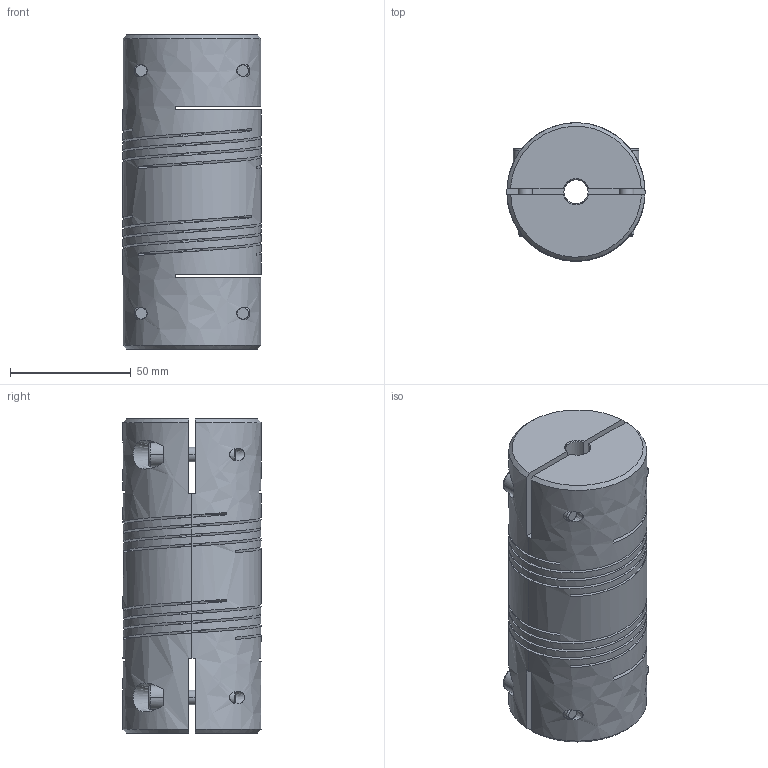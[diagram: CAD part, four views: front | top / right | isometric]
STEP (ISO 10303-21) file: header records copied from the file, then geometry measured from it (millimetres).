
FILE_DESCRIPTION((''),'2;1');
FILE_NAME('723_57','2026-02-24T',('SYSTEM'),(''),'PRO/ENGINEER BY PARAMETRIC TECHNOLOGY CORPORATION, 2016360','PRO/ENGINEER BY PARAMETRIC TECHNOLOGY CORPORATION, 2016360','');
FILE_SCHEMA(('AUTOMOTIVE_DESIGN { 1 0 10303 214 1 1 1 1 }'));
Length unit declared in the file: inch
Products named in the file (1): 723_57
Bounding box: 57.15 x 57.15 x 130 mm (x, y, z)
Volume: 267898.5 mm3; surface area: 81573.6 mm2
Topology: 1 solids, 1 shells, 195 faces, 587 edges, 391 vertices
Faces by surface type: bspline 195
Entity records: 15133 total; most frequent: CARTESIAN_POINT 9843, ORIENTED_EDGE 1158, EDGE_CURVE 579, B_SPLINE_CURVE_WITH_KNOTS 425, VERTEX_POINT 391, EDGE_LOOP 222, FACE_OUTER_BOUND 195, FILL_AREA_STYLE_COLOUR 195
